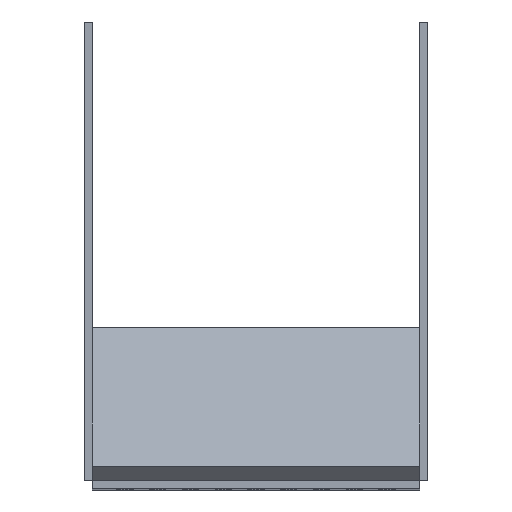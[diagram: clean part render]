
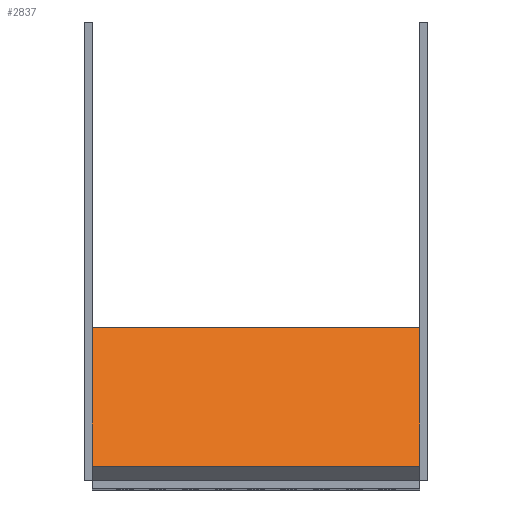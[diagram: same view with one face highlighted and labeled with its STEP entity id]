
A CAD part, top view. The second image highlights one B-rep face of the part: STEP entity #2837.
In plain terms, the highlighted planar face has unit normal (0, 0.707, 0.707) as drawn and (0, 0.669, 0.743) by its records, which use the part's own axes.
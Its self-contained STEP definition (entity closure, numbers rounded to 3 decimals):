
#141 = CARTESIAN_POINT ( 'NONE',  ( -100., 72.368, -27.78 ) ) ;
#248 = EDGE_CURVE ( 'NONE', #3732, #2708, #2361, .T. ) ;
#261 = VECTOR ( 'NONE', #699, 1000. ) ;
#432 = CARTESIAN_POINT ( 'NONE',  ( 0., 72.368, -27.78 ) ) ;
#453 = EDGE_CURVE ( 'NONE', #2338, #2555, #4026, .T. ) ;
#671 = ORIENTED_EDGE ( 'NONE', *, *, #248, .T. ) ;
#699 = DIRECTION ( 'NONE',  ( 0., -0.743, 0.669 ) ) ;
#862 = DIRECTION ( 'NONE',  ( -1., 0., 0. ) ) ;
#943 = FACE_OUTER_BOUND ( 'NONE', #955, .T. ) ;
#955 = EDGE_LOOP ( 'NONE', ( #4388, #2521, #671, #4159 ) ) ;
#1028 = CARTESIAN_POINT ( 'NONE',  ( -100., 72.368, -27.78 ) ) ;
#1153 = CARTESIAN_POINT ( 'NONE',  ( -100., 27.78, 12.368 ) ) ;
#1401 = DIRECTION ( 'NONE',  ( 1., 0., 0. ) ) ;
#1438 = DIRECTION ( 'NONE',  ( 1., 0., 0. ) ) ;
#1634 = VECTOR ( 'NONE', #3683, 1000. ) ;
#1745 = CARTESIAN_POINT ( 'NONE',  ( -100., 72.368, -27.78 ) ) ;
#1951 = PLANE ( 'NONE',  #4117 ) ;
#2338 = VERTEX_POINT ( 'NONE', #432 ) ;
#2361 = LINE ( 'NONE', #2838, #261 ) ;
#2521 = ORIENTED_EDGE ( 'NONE', *, *, #4461, .F. ) ;
#2555 = VERTEX_POINT ( 'NONE', #4572 ) ;
#2662 = DIRECTION ( 'NONE',  ( 0., 0.669, 0.743 ) ) ;
#2708 = VERTEX_POINT ( 'NONE', #1153 ) ;
#2837 = ADVANCED_FACE ( 'NONE', ( #943 ), #1951, .T. ) ;
#2838 = CARTESIAN_POINT ( 'NONE',  ( -100., 72.368, -27.78 ) ) ;
#3458 = VECTOR ( 'NONE', #1401, 1000. ) ;
#3683 = DIRECTION ( 'NONE',  ( 0., -0.743, 0.669 ) ) ;
#3687 = LINE ( 'NONE', #4583, #4532 ) ;
#3732 = VERTEX_POINT ( 'NONE', #1745 ) ;
#4026 = LINE ( 'NONE', #4447, #1634 ) ;
#4117 = AXIS2_PLACEMENT_3D ( 'NONE', #141, #2662, #862 ) ;
#4159 = ORIENTED_EDGE ( 'NONE', *, *, #4310, .T. ) ;
#4310 = EDGE_CURVE ( 'NONE', #2708, #2555, #3687, .T. ) ;
#4388 = ORIENTED_EDGE ( 'NONE', *, *, #453, .F. ) ;
#4447 = CARTESIAN_POINT ( 'NONE',  ( 0., 72.368, -27.78 ) ) ;
#4461 = EDGE_CURVE ( 'NONE', #3732, #2338, #4472, .T. ) ;
#4472 = LINE ( 'NONE', #1028, #3458 ) ;
#4532 = VECTOR ( 'NONE', #1438, 1000. ) ;
#4572 = CARTESIAN_POINT ( 'NONE',  ( 0., 27.78, 12.368 ) ) ;
#4583 = CARTESIAN_POINT ( 'NONE',  ( -100., 27.78, 12.368 ) ) ;
